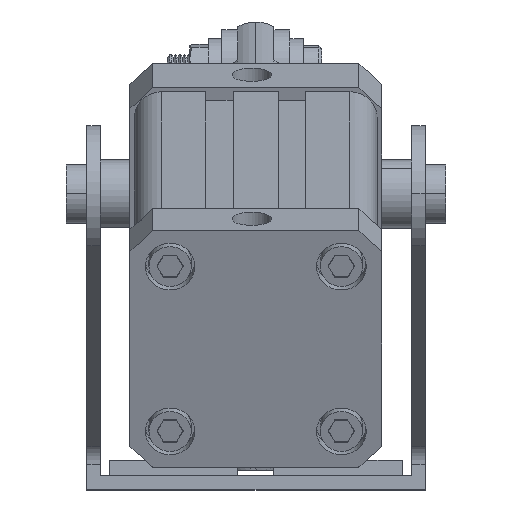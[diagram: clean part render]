
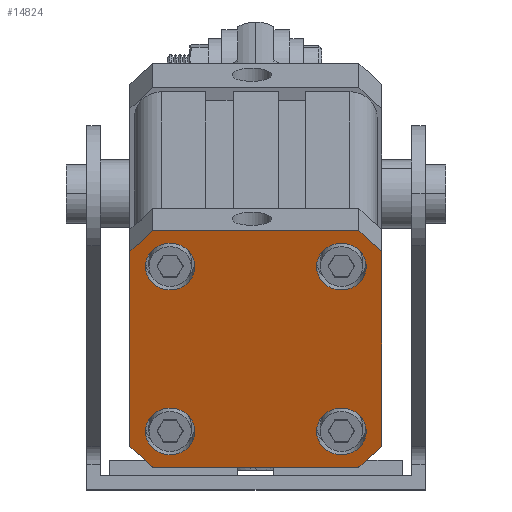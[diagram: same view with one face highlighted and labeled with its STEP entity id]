
A CAD part, top view. The second image highlights one B-rep face of the part: STEP entity #14824.
In plain terms, the highlighted planar face has unit normal (0, -0.336, 0.942) as drawn and (0, 0, -1) by its records, which use the part's own axes.
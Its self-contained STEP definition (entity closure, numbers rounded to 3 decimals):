
#124 = VECTOR ( 'NONE', #18297, 1000. ) ;
#201 = CARTESIAN_POINT ( 'NONE',  ( 7.85, 7.46, 0. ) ) ;
#359 = ORIENTED_EDGE ( 'NONE', *, *, #15932, .F. ) ;
#403 = CARTESIAN_POINT ( 'NONE',  ( -1., 49.41, 0. ) ) ;
#1101 = ORIENTED_EDGE ( 'NONE', *, *, #14330, .T. ) ;
#1155 = EDGE_LOOP ( 'NONE', ( #2954, #26783 ) ) ;
#1299 = EDGE_CURVE ( 'NONE', #26935, #18339, #8711, .T. ) ;
#1673 = FACE_BOUND ( 'NONE', #4176, .T. ) ;
#1990 = DIRECTION ( 'NONE',  ( -1., 0., 0. ) ) ;
#2119 = CARTESIAN_POINT ( 'NONE',  ( -1., 49.41, 0. ) ) ;
#2299 = CARTESIAN_POINT ( 'NONE',  ( 4., -1., 0. ) ) ;
#2450 = CARTESIAN_POINT ( 'NONE',  ( 13.31, 7.46, 0. ) ) ;
#2501 = DIRECTION ( 'NONE',  ( -1., 0., 0. ) ) ;
#2954 = ORIENTED_EDGE ( 'NONE', *, *, #15632, .F. ) ;
#3762 = CARTESIAN_POINT ( 'NONE',  ( 45.56, 7.46, 0. ) ) ;
#3799 = VERTEX_POINT ( 'NONE', #2450 ) ;
#3954 = ORIENTED_EDGE ( 'NONE', *, *, #14536, .F. ) ;
#4045 = VECTOR ( 'NONE', #9042, 1000. ) ;
#4126 = CARTESIAN_POINT ( 'NONE',  ( 51.02, 7.46, 0. ) ) ;
#4176 = EDGE_LOOP ( 'NONE', ( #359, #5475 ) ) ;
#4564 = VECTOR ( 'NONE', #14322, 1000. ) ;
#4586 = CARTESIAN_POINT ( 'NONE',  ( 40.1, 7.46, 0. ) ) ;
#4702 = CARTESIAN_POINT ( 'NONE',  ( 2.39, 45.95, 0. ) ) ;
#4919 = LINE ( 'NONE', #10281, #16453 ) ;
#5114 = ORIENTED_EDGE ( 'NONE', *, *, #20161, .F. ) ;
#5142 = VECTOR ( 'NONE', #16499, 1000. ) ;
#5274 = VERTEX_POINT ( 'NONE', #4702 ) ;
#5354 = EDGE_CURVE ( 'NONE', #5274, #17352, #15166, .T. ) ;
#5475 = ORIENTED_EDGE ( 'NONE', *, *, #9251, .F. ) ;
#5498 = VECTOR ( 'NONE', #11914, 1000. ) ;
#5606 = AXIS2_PLACEMENT_3D ( 'NONE', #19875, #6100, #22200 ) ;
#6093 = DIRECTION ( 'NONE',  ( -1., 0., 0. ) ) ;
#6100 = DIRECTION ( 'NONE',  ( 0., 0., -1. ) ) ;
#6122 = DIRECTION ( 'NONE',  ( -1., 0., 0. ) ) ;
#6391 = CARTESIAN_POINT ( 'NONE',  ( 49.41, -1., 0. ) ) ;
#6829 = VERTEX_POINT ( 'NONE', #9572 ) ;
#7321 = DIRECTION ( 'NONE',  ( 0., 0., -1. ) ) ;
#7714 = EDGE_CURVE ( 'NONE', #23904, #14713, #18506, .T. ) ;
#7775 = FACE_BOUND ( 'NONE', #1155, .T. ) ;
#7791 = AXIS2_PLACEMENT_3D ( 'NONE', #29558, #15773, #1990 ) ;
#8702 = DIRECTION ( 'NONE',  ( 0., 0., -1. ) ) ;
#8711 = CIRCLE ( 'NONE', #23242, 5.46 ) ;
#9037 = CARTESIAN_POINT ( 'NONE',  ( 49.41, 54.41, 0. ) ) ;
#9042 = DIRECTION ( 'NONE',  ( -1., 0., 0. ) ) ;
#9198 = ORIENTED_EDGE ( 'NONE', *, *, #10269, .F. ) ;
#9251 = EDGE_CURVE ( 'NONE', #3799, #20396, #15897, .T. ) ;
#9565 = CARTESIAN_POINT ( 'NONE',  ( 54.41, 54.41, 0. ) ) ;
#9572 = CARTESIAN_POINT ( 'NONE',  ( -1., 4., 0. ) ) ;
#9801 = CARTESIAN_POINT ( 'NONE',  ( 40.1, 45.95, 0. ) ) ;
#9943 = AXIS2_PLACEMENT_3D ( 'NONE', #3762, #19867, #6093 ) ;
#10240 = CARTESIAN_POINT ( 'NONE',  ( 54.41, 4., 0. ) ) ;
#10269 = EDGE_CURVE ( 'NONE', #28873, #27584, #20922, .T. ) ;
#10281 = CARTESIAN_POINT ( 'NONE',  ( -1., 54.41, 0. ) ) ;
#10447 = CARTESIAN_POINT ( 'NONE',  ( 54.41, 4., 0. ) ) ;
#10716 = LINE ( 'NONE', #23471, #4564 ) ;
#10738 = CARTESIAN_POINT ( 'NONE',  ( 54.41, 54.41, 0. ) ) ;
#10917 = LINE ( 'NONE', #24955, #4045 ) ;
#11304 = LINE ( 'NONE', #403, #5142 ) ;
#11396 = PLANE ( 'NONE',  #17864 ) ;
#11466 = ORIENTED_EDGE ( 'NONE', *, *, #24278, .T. ) ;
#11595 = CARTESIAN_POINT ( 'NONE',  ( 0., 0., 0. ) ) ;
#11914 = DIRECTION ( 'NONE',  ( 0., -1., 0. ) ) ;
#11966 = CARTESIAN_POINT ( 'NONE',  ( 45.56, 7.46, 0. ) ) ;
#11967 = CARTESIAN_POINT ( 'NONE',  ( 2.39, 7.46, 0. ) ) ;
#12258 = EDGE_LOOP ( 'NONE', ( #18846, #5114 ) ) ;
#12351 = LINE ( 'NONE', #9565, #5498 ) ;
#12730 = CARTESIAN_POINT ( 'NONE',  ( 7.85, 7.46, 0. ) ) ;
#13399 = AXIS2_PLACEMENT_3D ( 'NONE', #21114, #7321, #23439 ) ;
#13459 = EDGE_CURVE ( 'NONE', #23904, #21571, #21565, .T. ) ;
#13611 = ORIENTED_EDGE ( 'NONE', *, *, #7714, .T. ) ;
#13895 = DIRECTION ( 'NONE',  ( 1., 0., 0. ) ) ;
#14024 = VERTEX_POINT ( 'NONE', #6391 ) ;
#14215 = LINE ( 'NONE', #10447, #20327 ) ;
#14281 = DIRECTION ( 'NONE',  ( -1., 0., 0. ) ) ;
#14322 = DIRECTION ( 'NONE',  ( -0.707, 0.707, 0. ) ) ;
#14330 = EDGE_CURVE ( 'NONE', #25927, #6829, #10716, .T. ) ;
#14536 = EDGE_CURVE ( 'NONE', #24173, #6829, #4919, .T. ) ;
#14713 = VERTEX_POINT ( 'NONE', #29282 ) ;
#14824 = ADVANCED_FACE ( 'NONE', ( #7775, #25421, #26156, #1673, #19313 ), #11396, .F. ) ;
#15032 = DIRECTION ( 'NONE',  ( -1., 0., 0. ) ) ;
#15166 = CIRCLE ( 'NONE', #13399, 5.46 ) ;
#15632 = EDGE_CURVE ( 'NONE', #18339, #26935, #24324, .T. ) ;
#15773 = DIRECTION ( 'NONE',  ( 0., 0., -1. ) ) ;
#15897 = CIRCLE ( 'NONE', #24438, 5.46 ) ;
#15932 = EDGE_CURVE ( 'NONE', #20396, #3799, #27878, .T. ) ;
#16321 = DIRECTION ( 'NONE',  ( 0., 0., -1. ) ) ;
#16453 = VECTOR ( 'NONE', #24063, 1000. ) ;
#16499 = DIRECTION ( 'NONE',  ( 0.707, 0.707, 0. ) ) ;
#16942 = VERTEX_POINT ( 'NONE', #10240 ) ;
#17005 = ORIENTED_EDGE ( 'NONE', *, *, #17903, .T. ) ;
#17352 = VERTEX_POINT ( 'NONE', #20760 ) ;
#17590 = ORIENTED_EDGE ( 'NONE', *, *, #18295, .T. ) ;
#17693 = EDGE_LOOP ( 'NONE', ( #28724, #9198 ) ) ;
#17864 = AXIS2_PLACEMENT_3D ( 'NONE', #11595, #27636, #13895 ) ;
#17903 = EDGE_CURVE ( 'NONE', #24173, #21571, #11304, .T. ) ;
#18295 = EDGE_CURVE ( 'NONE', #14024, #25927, #10917, .T. ) ;
#18297 = DIRECTION ( 'NONE',  ( 0.707, -0.707, 0. ) ) ;
#18339 = VERTEX_POINT ( 'NONE', #4586 ) ;
#18506 = LINE ( 'NONE', #9037, #124 ) ;
#18846 = ORIENTED_EDGE ( 'NONE', *, *, #5354, .F. ) ;
#19313 = FACE_OUTER_BOUND ( 'NONE', #23870, .T. ) ;
#19867 = DIRECTION ( 'NONE',  ( 0., 0., -1. ) ) ;
#19875 = CARTESIAN_POINT ( 'NONE',  ( 45.56, 45.95, 0. ) ) ;
#20014 = CARTESIAN_POINT ( 'NONE',  ( 4., 54.41, 0. ) ) ;
#20161 = EDGE_CURVE ( 'NONE', #17352, #5274, #21904, .T. ) ;
#20302 = AXIS2_PLACEMENT_3D ( 'NONE', #22507, #8702, #24784 ) ;
#20327 = VECTOR ( 'NONE', #26546, 1000. ) ;
#20396 = VERTEX_POINT ( 'NONE', #11967 ) ;
#20760 = CARTESIAN_POINT ( 'NONE',  ( 13.31, 45.95, 0. ) ) ;
#20922 = CIRCLE ( 'NONE', #5606, 5.46 ) ;
#21114 = CARTESIAN_POINT ( 'NONE',  ( 7.85, 45.95, 0. ) ) ;
#21565 = LINE ( 'NONE', #10738, #26965 ) ;
#21571 = VERTEX_POINT ( 'NONE', #20014 ) ;
#21904 = CIRCLE ( 'NONE', #7791, 5.46 ) ;
#22200 = DIRECTION ( 'NONE',  ( -1., 0., 0. ) ) ;
#22507 = CARTESIAN_POINT ( 'NONE',  ( 45.56, 45.95, 0. ) ) ;
#23185 = ORIENTED_EDGE ( 'NONE', *, *, #13459, .F. ) ;
#23242 = AXIS2_PLACEMENT_3D ( 'NONE', #11966, #28009, #14281 ) ;
#23354 = EDGE_CURVE ( 'NONE', #16942, #14024, #14215, .T. ) ;
#23439 = DIRECTION ( 'NONE',  ( -1., 0., 0. ) ) ;
#23471 = CARTESIAN_POINT ( 'NONE',  ( 4., -1., 0. ) ) ;
#23870 = EDGE_LOOP ( 'NONE', ( #11466, #26716, #17590, #1101, #3954, #17005, #23185, #13611 ) ) ;
#23904 = VERTEX_POINT ( 'NONE', #24213 ) ;
#24063 = DIRECTION ( 'NONE',  ( 0., -1., 0. ) ) ;
#24173 = VERTEX_POINT ( 'NONE', #2119 ) ;
#24213 = CARTESIAN_POINT ( 'NONE',  ( 49.41, 54.41, 0. ) ) ;
#24278 = EDGE_CURVE ( 'NONE', #14713, #16942, #12351, .T. ) ;
#24324 = CIRCLE ( 'NONE', #9943, 5.46 ) ;
#24325 = CIRCLE ( 'NONE', #20302, 5.46 ) ;
#24438 = AXIS2_PLACEMENT_3D ( 'NONE', #12730, #28780, #15032 ) ;
#24784 = DIRECTION ( 'NONE',  ( -1., 0., 0. ) ) ;
#24955 = CARTESIAN_POINT ( 'NONE',  ( 54.41, -1., 0. ) ) ;
#25421 = FACE_BOUND ( 'NONE', #17693, .T. ) ;
#25927 = VERTEX_POINT ( 'NONE', #2299 ) ;
#26156 = FACE_BOUND ( 'NONE', #12258, .T. ) ;
#26195 = EDGE_CURVE ( 'NONE', #27584, #28873, #24325, .T. ) ;
#26546 = DIRECTION ( 'NONE',  ( -0.707, -0.707, 0. ) ) ;
#26716 = ORIENTED_EDGE ( 'NONE', *, *, #23354, .T. ) ;
#26783 = ORIENTED_EDGE ( 'NONE', *, *, #1299, .F. ) ;
#26935 = VERTEX_POINT ( 'NONE', #4126 ) ;
#26965 = VECTOR ( 'NONE', #6122, 1000. ) ;
#27282 = CARTESIAN_POINT ( 'NONE',  ( 51.02, 45.95, 0. ) ) ;
#27584 = VERTEX_POINT ( 'NONE', #9801 ) ;
#27636 = DIRECTION ( 'NONE',  ( 0., 0., 1. ) ) ;
#27878 = CIRCLE ( 'NONE', #27881, 5.46 ) ;
#27881 = AXIS2_PLACEMENT_3D ( 'NONE', #201, #16321, #2501 ) ;
#28009 = DIRECTION ( 'NONE',  ( 0., 0., -1. ) ) ;
#28724 = ORIENTED_EDGE ( 'NONE', *, *, #26195, .F. ) ;
#28780 = DIRECTION ( 'NONE',  ( 0., 0., -1. ) ) ;
#28873 = VERTEX_POINT ( 'NONE', #27282 ) ;
#29282 = CARTESIAN_POINT ( 'NONE',  ( 54.41, 49.41, 0. ) ) ;
#29558 = CARTESIAN_POINT ( 'NONE',  ( 7.85, 45.95, 0. ) ) ;
